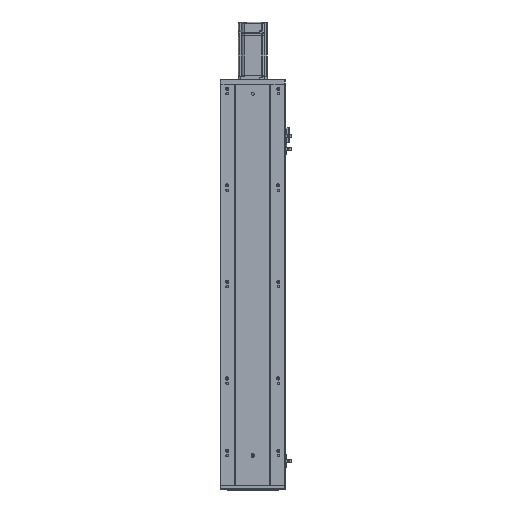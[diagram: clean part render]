
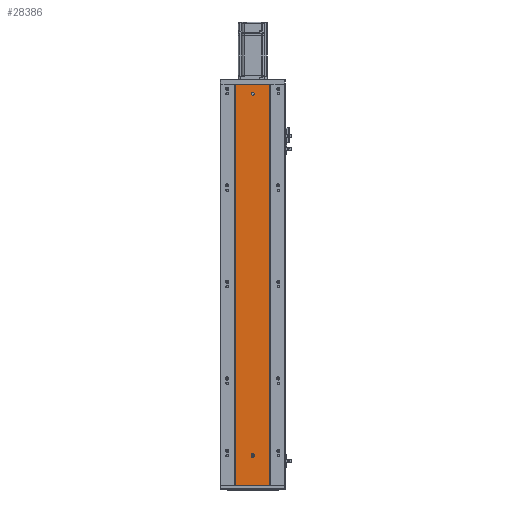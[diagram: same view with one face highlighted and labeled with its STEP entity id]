
A CAD part, front view. The second image highlights one B-rep face of the part: STEP entity #28386.
In plain terms, the highlighted planar face has unit normal (0, -1, 0).
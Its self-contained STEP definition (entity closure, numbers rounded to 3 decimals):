
#244 = CIRCLE ( 'NONE', #18035, 3. ) ;
#1326 = LINE ( 'NONE', #22434, #57910 ) ;
#1429 = ORIENTED_EDGE ( 'NONE', *, *, #32977, .T. ) ;
#2000 = CARTESIAN_POINT ( 'NONE',  ( 131.505, 78.746, 59.5 ) ) ;
#2336 = ORIENTED_EDGE ( 'NONE', *, *, #62886, .F. ) ;
#2377 = EDGE_CURVE ( 'NONE', #54920, #31123, #12156, .T. ) ;
#3895 = VERTEX_POINT ( 'NONE', #47938 ) ;
#4218 = CARTESIAN_POINT ( 'NONE',  ( 0., 78.746, 831. ) ) ;
#5408 = EDGE_CURVE ( 'NONE', #54920, #15466, #56073, .T. ) ;
#6290 = CARTESIAN_POINT ( 'NONE',  ( 137.505, 78.746, 62.5 ) ) ;
#7337 = DIRECTION ( 'NONE',  ( 0., 0., -1. ) ) ;
#7533 = DIRECTION ( 'NONE',  ( 1., 0., 0. ) ) ;
#7685 = CARTESIAN_POINT ( 'NONE',  ( 131.505, 78.746, 62.5 ) ) ;
#7752 = CARTESIAN_POINT ( 'NONE',  ( 134.505, 78.746, 811. ) ) ;
#7783 = CARTESIAN_POINT ( 'NONE',  ( 170.005, 78.746, 831. ) ) ;
#8152 = CARTESIAN_POINT ( 'NONE',  ( 0., 78.746, 0. ) ) ;
#8528 = VECTOR ( 'NONE', #33085, 1000. ) ;
#9106 = DIRECTION ( 'NONE',  ( 0., -1., 0. ) ) ;
#9116 = CARTESIAN_POINT ( 'NONE',  ( 170.005, 78.746, 0. ) ) ;
#9316 = DIRECTION ( 'NONE',  ( 1., 0., 0. ) ) ;
#9559 = AXIS2_PLACEMENT_3D ( 'NONE', #7752, #49910, #50143 ) ;
#10114 = ORIENTED_EDGE ( 'NONE', *, *, #32251, .F. ) ;
#11415 = CARTESIAN_POINT ( 'NONE',  ( 99.005, 78.746, 0. ) ) ;
#12156 = LINE ( 'NONE', #7783, #38381 ) ;
#12984 = DIRECTION ( 'NONE',  ( 0., 0., -1. ) ) ;
#13373 = LINE ( 'NONE', #8152, #22392 ) ;
#13488 = EDGE_LOOP ( 'NONE', ( #50023, #2336, #59978, #25441 ) ) ;
#14970 = CARTESIAN_POINT ( 'NONE',  ( 170.005, 78.746, 831. ) ) ;
#15466 = VERTEX_POINT ( 'NONE', #22411 ) ;
#15660 = VERTEX_POINT ( 'NONE', #51905 ) ;
#16319 = VERTEX_POINT ( 'NONE', #11415 ) ;
#18035 = AXIS2_PLACEMENT_3D ( 'NONE', #19770, #35129, #50947 ) ;
#18271 = EDGE_CURVE ( 'NONE', #23693, #47798, #27380, .T. ) ;
#19549 = ORIENTED_EDGE ( 'NONE', *, *, #5408, .T. ) ;
#19770 = CARTESIAN_POINT ( 'NONE',  ( 134.505, 78.746, 59.5 ) ) ;
#21513 = EDGE_LOOP ( 'NONE', ( #30912, #68017, #19549, #1429 ) ) ;
#22245 = EDGE_CURVE ( 'NONE', #39970, #3895, #67823, .T. ) ;
#22353 = VECTOR ( 'NONE', #29301, 1000. ) ;
#22392 = VECTOR ( 'NONE', #44806, 1000. ) ;
#22411 = CARTESIAN_POINT ( 'NONE',  ( 99.005, 78.746, 831. ) ) ;
#22434 = CARTESIAN_POINT ( 'NONE',  ( 99.005, 78.746, 831. ) ) ;
#22966 = AXIS2_PLACEMENT_3D ( 'NONE', #48793, #64641, #7533 ) ;
#23612 = CIRCLE ( 'NONE', #24160, 3. ) ;
#23693 = VERTEX_POINT ( 'NONE', #36910 ) ;
#24160 = AXIS2_PLACEMENT_3D ( 'NONE', #40727, #9106, #9316 ) ;
#25119 = PLANE ( 'NONE',  #63925 ) ;
#25441 = ORIENTED_EDGE ( 'NONE', *, *, #18271, .F. ) ;
#27380 = LINE ( 'NONE', #7685, #34766 ) ;
#28386 = ADVANCED_FACE ( 'NONE', ( #57718, #49548, #56056 ), #25119, .T. ) ;
#29301 = DIRECTION ( 'NONE',  ( 0., 0., 1. ) ) ;
#30912 = ORIENTED_EDGE ( 'NONE', *, *, #50961, .F. ) ;
#31123 = VERTEX_POINT ( 'NONE', #9116 ) ;
#32251 = EDGE_CURVE ( 'NONE', #3895, #39970, #23612, .T. ) ;
#32977 = EDGE_CURVE ( 'NONE', #15466, #16319, #1326, .T. ) ;
#33085 = DIRECTION ( 'NONE',  ( -1., 0., 0. ) ) ;
#33821 = EDGE_CURVE ( 'NONE', #47798, #15660, #244, .T. ) ;
#34766 = VECTOR ( 'NONE', #12984, 1000. ) ;
#35129 = DIRECTION ( 'NONE',  ( 0., -1., 0. ) ) ;
#36910 = CARTESIAN_POINT ( 'NONE',  ( 131.505, 78.746, 62.5 ) ) ;
#38381 = VECTOR ( 'NONE', #7337, 1000. ) ;
#39970 = VERTEX_POINT ( 'NONE', #52747 ) ;
#40727 = CARTESIAN_POINT ( 'NONE',  ( 134.505, 78.746, 811. ) ) ;
#41214 = LINE ( 'NONE', #60452, #22353 ) ;
#42985 = ORIENTED_EDGE ( 'NONE', *, *, #22245, .F. ) ;
#44806 = DIRECTION ( 'NONE',  ( -1., 0., 0. ) ) ;
#47798 = VERTEX_POINT ( 'NONE', #2000 ) ;
#47938 = CARTESIAN_POINT ( 'NONE',  ( 134.505, 78.746, 814. ) ) ;
#48793 = CARTESIAN_POINT ( 'NONE',  ( 134.505, 78.746, 62.5 ) ) ;
#49548 = FACE_BOUND ( 'NONE', #60407, .T. ) ;
#49910 = DIRECTION ( 'NONE',  ( 0., -1., 0. ) ) ;
#50023 = ORIENTED_EDGE ( 'NONE', *, *, #61009, .F. ) ;
#50143 = DIRECTION ( 'NONE',  ( 1., 0., 0. ) ) ;
#50947 = DIRECTION ( 'NONE',  ( 1., 0., 0. ) ) ;
#50961 = EDGE_CURVE ( 'NONE', #31123, #16319, #13373, .T. ) ;
#51905 = CARTESIAN_POINT ( 'NONE',  ( 137.505, 78.746, 59.5 ) ) ;
#52747 = CARTESIAN_POINT ( 'NONE',  ( 134.505, 78.746, 808. ) ) ;
#54424 = CIRCLE ( 'NONE', #22966, 3. ) ;
#54920 = VERTEX_POINT ( 'NONE', #14970 ) ;
#56035 = DIRECTION ( 'NONE',  ( 1., 0., 0. ) ) ;
#56056 = FACE_OUTER_BOUND ( 'NONE', #21513, .T. ) ;
#56073 = LINE ( 'NONE', #64720, #8528 ) ;
#57718 = FACE_BOUND ( 'NONE', #13488, .T. ) ;
#57910 = VECTOR ( 'NONE', #64595, 1000. ) ;
#59978 = ORIENTED_EDGE ( 'NONE', *, *, #33821, .F. ) ;
#60407 = EDGE_LOOP ( 'NONE', ( #42985, #10114 ) ) ;
#60452 = CARTESIAN_POINT ( 'NONE',  ( 137.505, 78.746, 62.5 ) ) ;
#61009 = EDGE_CURVE ( 'NONE', #61528, #23693, #54424, .T. ) ;
#61528 = VERTEX_POINT ( 'NONE', #6290 ) ;
#62886 = EDGE_CURVE ( 'NONE', #15660, #61528, #41214, .T. ) ;
#63925 = AXIS2_PLACEMENT_3D ( 'NONE', #4218, #66411, #56035 ) ;
#64595 = DIRECTION ( 'NONE',  ( 0., 0., -1. ) ) ;
#64641 = DIRECTION ( 'NONE',  ( 0., -1., 0. ) ) ;
#64720 = CARTESIAN_POINT ( 'NONE',  ( 0., 78.746, 831. ) ) ;
#66411 = DIRECTION ( 'NONE',  ( 0., -1., 0. ) ) ;
#67823 = CIRCLE ( 'NONE', #9559, 3. ) ;
#68017 = ORIENTED_EDGE ( 'NONE', *, *, #2377, .F. ) ;
